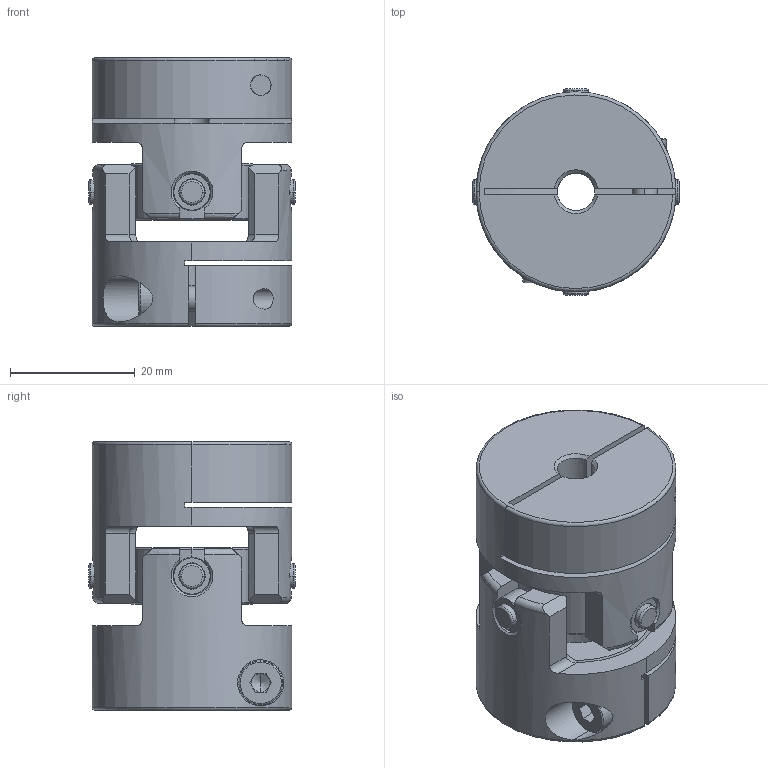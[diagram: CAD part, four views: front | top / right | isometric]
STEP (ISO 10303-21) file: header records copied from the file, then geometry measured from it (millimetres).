
FILE_DESCRIPTION (( 'STEP AP203' ), '1' );
FILE_NAME ('SCJB-32C-6X14_203.STEP', '2013-05-18T06:47:34', ( 'Z77' ), ( '' ), 'SwSTEP 2.0', 'SolidWorks 2012', '' );
FILE_SCHEMA (( 'CONFIG_CONTROL_DESIGN' ));
Length unit declared in the file: millimetre
Products named in the file (1): SCJB-32C-6X14_203
Bounding box: 33 x 33 x 43 mm (x, y, z)
Volume: 23915.7 mm3; surface area: 12485.7 mm2
Topology: 1 solids, 1 shells, 334 faces, 858 edges, 530 vertices
Faces by surface type: plane 114, cylinder 96, torus 77, cone 35, bspline 12
Entity records: 15883 total; most frequent: CARTESIAN_POINT 7780, DIRECTION 1723, ORIENTED_EDGE 1692, EDGE_CURVE 846, AXIS2_PLACEMENT_3D 718, VERTEX_POINT 528, CIRCLE 396, EDGE_LOOP 362
